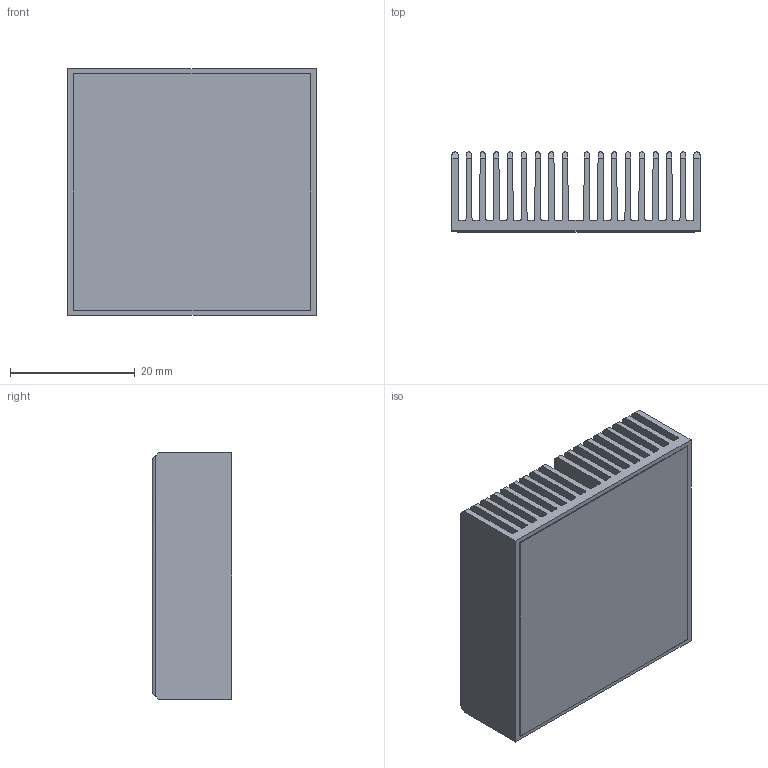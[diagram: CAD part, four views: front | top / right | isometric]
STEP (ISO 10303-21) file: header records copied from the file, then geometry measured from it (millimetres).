
FILE_DESCRIPTION (( 'STEP AP214' ), '1' );
FILE_NAME ('INL40001-13-1.7.STEP', '2023-03-01T17:10:08', ( '' ), ( '' ), 'SwSTEP 2.0', 'SolidWorks 2020', '' );
FILE_SCHEMA (( 'AUTOMOTIVE_DESIGN' ));
Length unit declared in the file: millimetre
Products named in the file (1): INL40001-13-1.7
Bounding box: 39.8 x 12.83 x 39.5 mm (x, y, z)
Volume: 9792.8 mm3; surface area: 21777.8 mm2
Topology: 2 solids, 2 shells, 150 faces, 438 edges, 292 vertices
Faces by surface type: plane 98, cylinder 52
Entity records: 6623 total; most frequent: CARTESIAN_POINT 989, ORIENTED_EDGE 876, DIRECTION 772, EDGE_CURVE 438, VECTOR 334, LINE 334, VERTEX_POINT 292, AXIS2_PLACEMENT_3D 219
